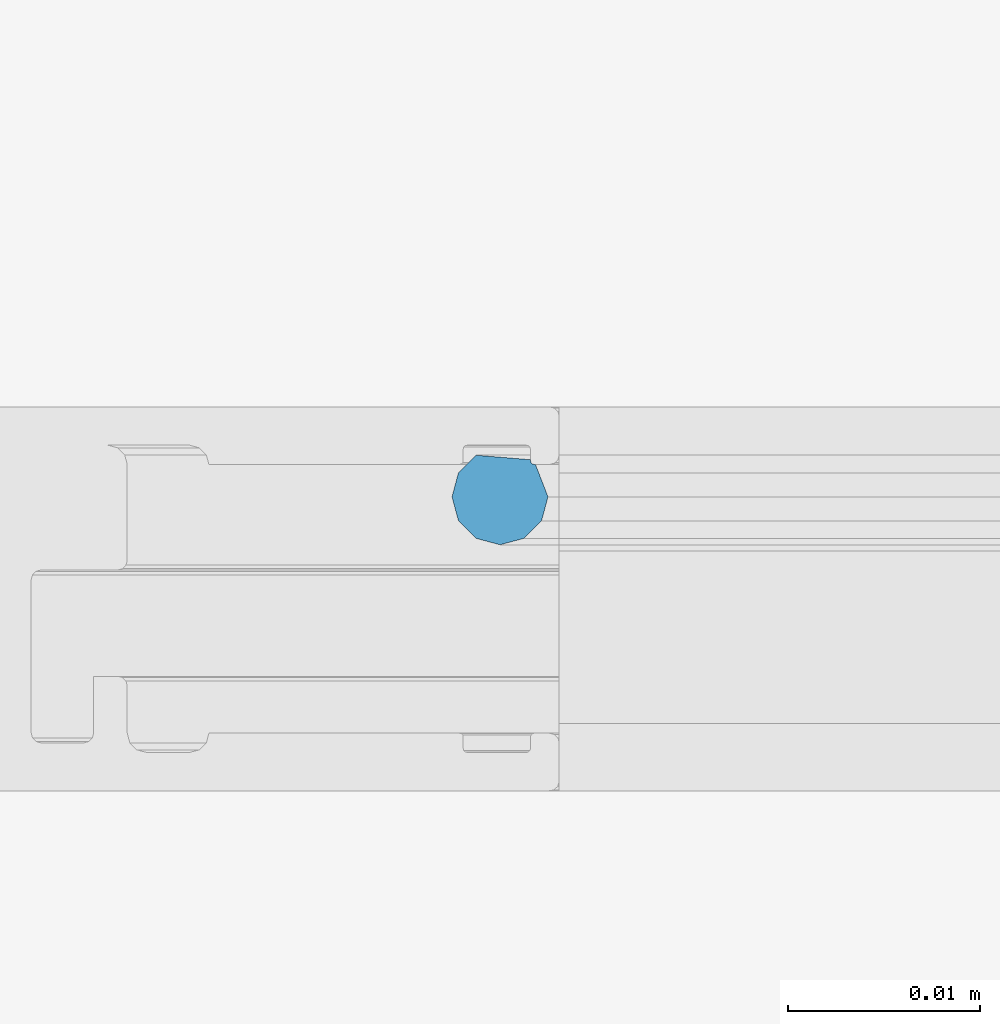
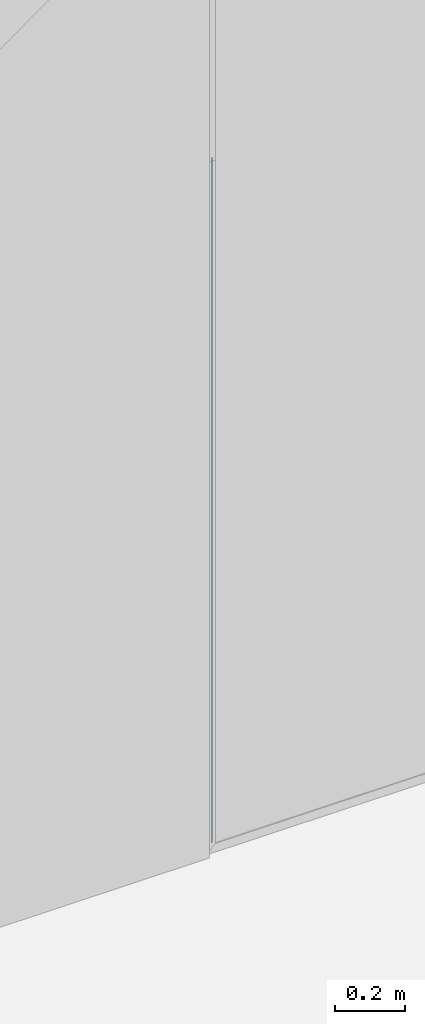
# One storey, part 37 of 387: 1 building element part, 2 elements without a shape of their own.
"""IFC2X3 building model written with IfcOpenShell, lengths in millimetres."""

from ifc_helpers import new_model, entity, si_unit, converted_unit, derived_unit, money_unit, direction, frame, origin_with_axes, place, context, subcontext, project, spatial, faceted_brep, source, transform, mapped, material, type_object, element, aggregate, save


model = new_model("IFC2X3")

# Units and contexts
model_context = context("Model", 3, precision=0.01, world=origin_with_axes(), true_north=direction((0.0, 1.0)))
body_context = subcontext(model_context, "Body", "Model", "MODEL_VIEW")
ifc_project = project(units=[si_unit("LENGTHUNIT", "METRE", prefix="MILLI"), si_unit("AREAUNIT", "SQUARE_METRE"), si_unit("VOLUMEUNIT", "CUBIC_METRE"), converted_unit("PLANEANGLEUNIT", "DEGREE", entity("IfcPlaneAngleMeasure", 0.0174532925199), si_unit("PLANEANGLEUNIT", "RADIAN"), dimensions=[0, 0, 0, 0, 0, 0, 0]), si_unit("SOLIDANGLEUNIT", "STERADIAN"), money_unit("EUR"), converted_unit("TIMEUNIT", "Year", entity("IfcTimeMeasure", 31556926.0), si_unit("TIMEUNIT", "SECOND"), dimensions=[0, 0, 1, 0, 0, 0, 0]), si_unit("MASSUNIT", "GRAM", prefix="KILO"), si_unit("THERMODYNAMICTEMPERATUREUNIT", "DEGREE_CELSIUS"), si_unit("LUMINOUSINTENSITYUNIT", "LUMEN"), si_unit("ENERGYUNIT", "JOULE", prefix="MEGA"), derived_unit("THERMALCONDUCTANCEUNIT", [(si_unit("POWERUNIT", "WATT"), 1), (si_unit("LENGTHUNIT", "METRE"), -1), (si_unit("THERMODYNAMICTEMPERATUREUNIT", "KELVIN"), -1)]), derived_unit("SPECIFICHEATCAPACITYUNIT", [(si_unit("ENERGYUNIT", "JOULE"), 1), (si_unit("MASSUNIT", "GRAM", prefix="KILO"), -1), (si_unit("THERMODYNAMICTEMPERATUREUNIT", "KELVIN"), -1)]), derived_unit("MASSDENSITYUNIT", [(si_unit("MASSUNIT", "GRAM", prefix="KILO"), 1), (si_unit("VOLUMEUNIT", "CUBIC_METRE"), -1)])], contexts=[model_context])

# Site, building, storey
site_placement = place(None, origin_with_axes())
site = spatial("IfcSite", under=ifc_project, at=site_placement, Name="Puškini 31, Narva", CompositionType="ELEMENT")
building_placement = place(site_placement, origin_with_axes())
building = spatial("IfcBuilding", under=site, at=building_placement, Name="Narva Riigigümnaasium", CompositionType="ELEMENT")
storey_placement = place(building_placement, frame((0.0, 0.0, 2640.0), z_axis=(0.0, 0.0, 1.0), x_axis=(1.0, 0.0, 0.0)))
storey = spatial("IfcBuildingStorey", under=building, at=storey_placement, Name="2.korrus +2.64", CompositionType="ELEMENT", Elevation=2640.0)

# Curtain wall, member, building element part
curtain_wall_type = type_object("IfcCurtainWallType", Name="Curtain Wall Type", PredefinedType="NOTDEFINED")
curtain_wall_placement = place(storey_placement, frame((29819.999977, 163516.999995, -2.6516426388e-05), z_axis=(0.0, 0.0, 1.0), x_axis=(1.0, 0.0, 0.0)))
curtain_wall = element("IfcCurtainWall", 1, at=curtain_wall_placement, inside=storey, type_object=curtain_wall_type, Name="G-SKLF-46")
member_type = type_object("IfcMemberType", Name="30 x 10", PredefinedType="MULLION")
member_placement = place(curtain_wall_placement, frame((-1419.99999997, 3.94777543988e-08, 0.0), z_axis=(0.0, 0.0, 1.0), x_axis=(1.0, 0.0, 0.0)))
member = element("IfcMember", 2, at=member_placement, type_object=member_type, Name="G-SKLF-49-raam", ObjectType="MULLION")
aggregate(curtain_wall, [member])
ifc_material = material(Name="Membraan - Veekindel")
shared_shape = source(origin_with_axes(), body_context, "Body", "Brep", [
    faceted_brep([(25.6641727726, 7.48000965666, 25.6641727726), (25.6641727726, 7.48000965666, 2400.00000922), (28.5, 7.24760028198, 2400.00000922), (28.5, 7.24760028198, 28.5), (24.7491092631, 6.56494614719, 24.7491092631), (24.7491092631, 6.56494614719, 2400.00000922), (24.4141727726, 5.31494614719, 2400.00000922), (24.7491092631, 4.06494614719, 2400.00000922), (25.6641727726, 3.14988263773, 2400.00000922), (26.9141727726, 2.81494614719, 2400.00000922), (28.1641727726, 3.14988263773, 2400.00000922), (29.079236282, 4.06494614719, 2400.00000922), (29.4141727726, 5.31494614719, 2400.00000922), (28.7609519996, 6.99999999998, 2400.00000922), (28.7, 6.99999999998, 2400.00000922), (28.6, 7.02679491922, 2400.00000922), (28.5267949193, 7.09999999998, 2400.00000922), (28.5, 7.19999999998, 2400.00000922), (28.5, 7.19999999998, 28.5), (28.5267949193, 7.09999999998, 28.5267949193), (28.6, 7.02679491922, 28.6), (28.7, 6.99999999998, 28.7), (28.7609519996, 6.99999999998, 28.7609519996), (29.4141727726, 5.31494614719, 29.4141727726), (29.079236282, 4.06494614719, 29.079236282), (28.1641727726, 3.14988263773, 28.1641727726), (26.9141727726, 2.81494614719, 26.9141727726), (25.6641727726, 3.14988263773, 25.6641727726), (24.7491092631, 4.06494614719, 24.7491092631), (24.4141727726, 5.31494614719, 24.4141727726)], [[[0, 1, 2, 3]], [[4, 5, 1, 0]], [[2, 1, 5, 6, 7, 8, 9, 10, 11, 12, 13, 14, 15, 16, 17]], [[3, 2, 17, 18]], [[3, 18, 19, 20, 21, 22, 23, 24, 25, 26, 27, 28, 29, 4, 0]], [[29, 6, 5, 4]], [[28, 7, 6, 29]], [[27, 8, 7, 28]], [[26, 9, 8, 27]], [[25, 10, 9, 26]], [[24, 11, 10, 25]], [[23, 12, 11, 24]], [[22, 13, 12, 23]], [[21, 14, 13, 22]], [[20, 15, 14, 21]], [[19, 16, 15, 20]], [[18, 17, 16, 19]]]),
])
building_element_part_placement = place(member_placement, origin_with_axes())
building_element_part = element("IfcBuildingElementPart", 3, at=building_element_part_placement, material=ifc_material, Name="Membraan - Veekindel", context=body_context, shape_type="MappedRepresentation", body=[
    mapped(shared_shape, transform((0.0, 0.0, 0.0))),
])
aggregate(member, [building_element_part])

save(model, "model.ifc")
